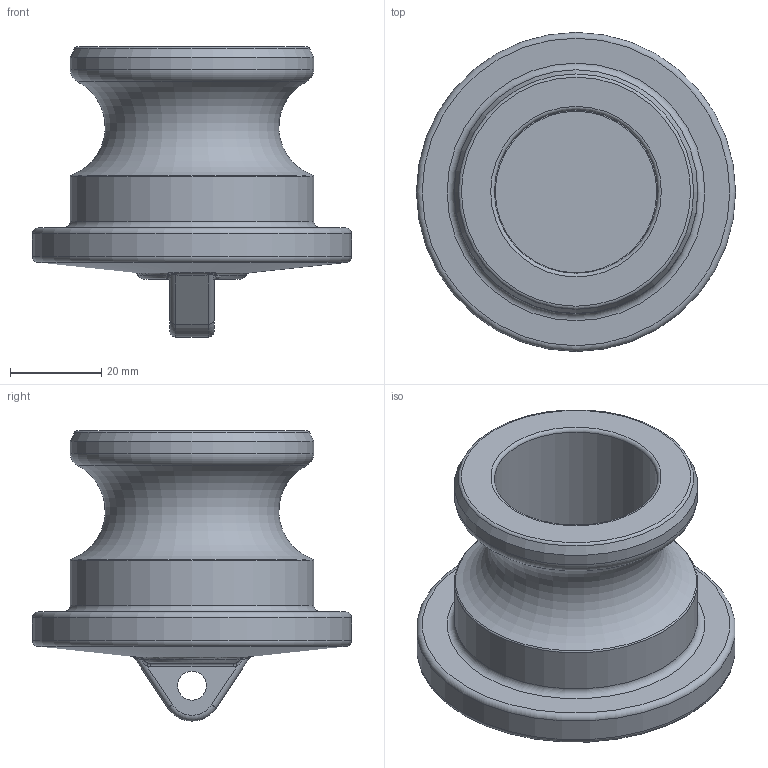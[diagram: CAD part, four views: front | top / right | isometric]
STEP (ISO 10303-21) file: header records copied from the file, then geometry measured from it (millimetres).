
FILE_DESCRIPTION(/* description */ ('Alibre Inc.'),/* implementation_level */ '2;1');
FILE_NAME(/* name */ 'export0',/* time_stamp */ '2016-03-15T17:59:16-04:00',/* author */ (''),/* organization */ (''),/* preprocessor_version */ 'ST-DEVELOPER v14',/* originating_system */ 'Alibre',/* authorisation */ '');
FILE_SCHEMA (('CONFIG_CONTROL_DESIGN'));
Length unit declared in the file: centimetre
Products named in the file (1): ID_1
Bounding box: 69.85 x 69.85 x 63.5 mm (x, y, z)
Volume: 65796 mm3; surface area: 20733.4 mm2
Topology: 1 solids, 1 shells, 65 faces, 140 edges, 76 vertices
Faces by surface type: bspline 22, torus 14, cylinder 13, plane 10, sphere 5, cone 1
Full cylindrical faces by diameter (mm): 6.35 x1, 35.344 x1, 35.814 x1, 53.34 x2, 69.85 x1
Entity records: 4129 total; most frequent: CARTESIAN_POINT 2886, ORIENTED_EDGE 232, DIRECTION 197, EDGE_CURVE 116, AXIS2_PLACEMENT_3D 103, EDGE_LOOP 86, FACE_BOUND 86, VERTEX_POINT 72
